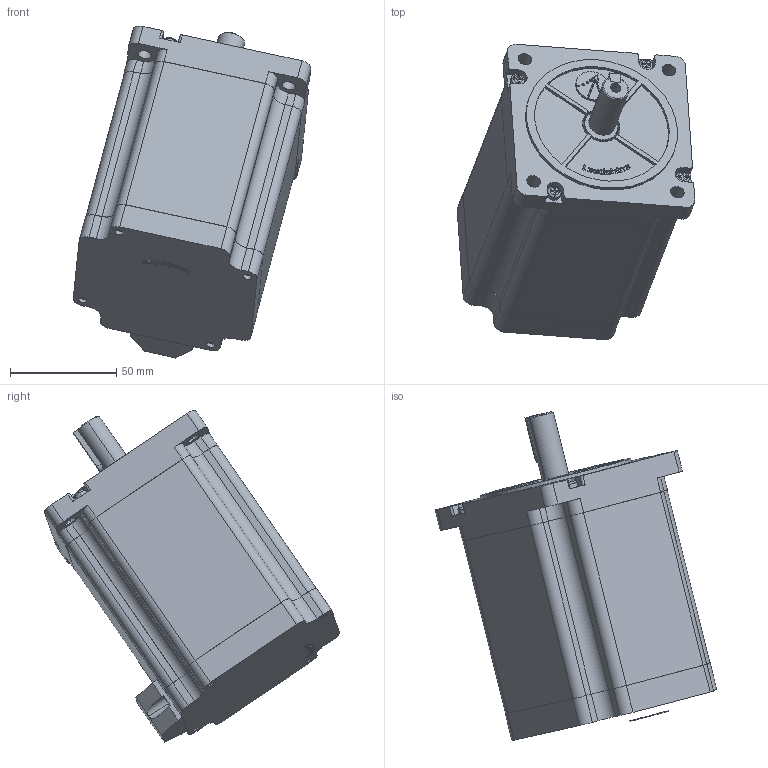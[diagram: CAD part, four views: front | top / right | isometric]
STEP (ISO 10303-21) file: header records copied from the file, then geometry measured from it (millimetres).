
FILE_DESCRIPTION (( 'STEP AP203' ), '1' );
FILE_NAME ('86CM85-0-S001.STEP', '2021-04-28T09:50:58', ( 'Owner' ), ( 'Organization' ), 'SwSTEP 2.0', 'SolidWorks 2018', '' );
FILE_SCHEMA (( 'CONFIG_CONTROL_DESIGN' ));
Length unit declared in the file: millimetre
Products named in the file (6): 錨璃11_Default; 86CM85-1_Default_1; LOGO123_Default; 86CM85-0-S001; 揤盄輸_Default
Assembly tree (5 placements, depth 2):
  錨璃11_Default
  86CM85-0-S001
    LOGO123_Default  x2
    錨璃11_Default
    揤盄輸_Default
    86CM85-1_Default_1
Bounding box: 112.07 x 139.18 x 156.54 mm (x, y, z)
Volume: 767026.2 mm3; surface area: 59221.5 mm2
Topology: 24 solids, 24 shells, 677 faces, 1802 edges, 1188 vertices
Faces by surface type: plane 376, bspline 156, cylinder 132, torus 8, cone 5
Entity records: 18474 total; most frequent: CARTESIAN_POINT 5729, ORIENTED_EDGE 2644, DIRECTION 2318, EDGE_CURVE 1322, VERTEX_POINT 868, VECTOR 848, LINE 848, AXIS2_PLACEMENT_3D 735
